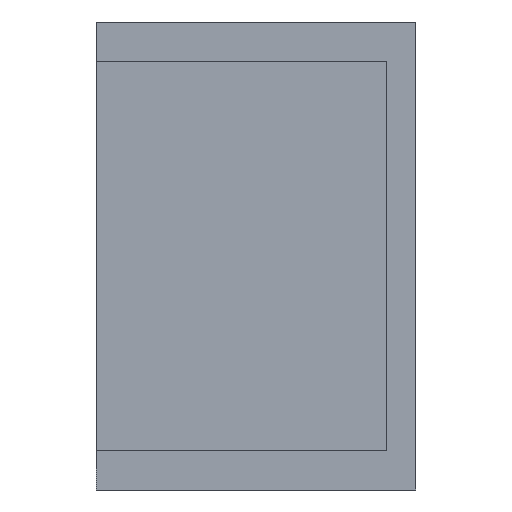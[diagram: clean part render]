
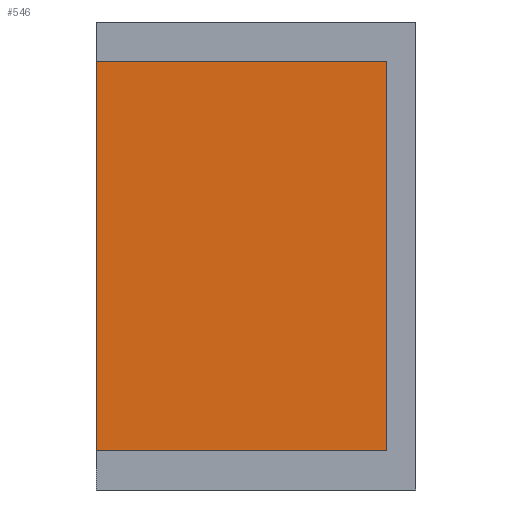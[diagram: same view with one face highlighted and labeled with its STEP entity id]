
A CAD part, left-side view. The second image highlights one B-rep face of the part: STEP entity #546.
In plain terms, the highlighted planar face has unit normal (-1, 0, 0).
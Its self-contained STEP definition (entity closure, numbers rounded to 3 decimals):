
#402 = EDGE_CURVE('',#403,#405,#407,.T.);
#403 = VERTEX_POINT('',#404);
#404 = CARTESIAN_POINT('',(-31.,0.,-8.));
#405 = VERTEX_POINT('',#406);
#406 = CARTESIAN_POINT('',(-31.,0.,0.)
  );
#407 = LINE('',#408,#409);
#408 = CARTESIAN_POINT('',(-31.,0.,-8.8));
#409 = VECTOR('',#410,1.);
#410 = DIRECTION('',(0.,0.,1.));
#546 = ADVANCED_FACE('',(#547),#572,.T.);
#547 = FACE_BOUND('',#548,.F.);
#548 = EDGE_LOOP('',(#549,#557,#558,#566));
#549 = ORIENTED_EDGE('',*,*,#550,.F.);
#550 = EDGE_CURVE('',#403,#551,#553,.T.);
#551 = VERTEX_POINT('',#552);
#552 = CARTESIAN_POINT('',(-31.,-5.96,-8.));
#553 = LINE('',#554,#555);
#554 = CARTESIAN_POINT('',(-31.,0.,-8.));
#555 = VECTOR('',#556,1.);
#556 = DIRECTION('',(0.,-1.,0.));
#557 = ORIENTED_EDGE('',*,*,#402,.T.);
#558 = ORIENTED_EDGE('',*,*,#559,.F.);
#559 = EDGE_CURVE('',#560,#405,#562,.T.);
#560 = VERTEX_POINT('',#561);
#561 = CARTESIAN_POINT('',(-31.,-5.96,0.));
#562 = LINE('',#563,#564);
#563 = CARTESIAN_POINT('',(-31.,-5.96,0.));
#564 = VECTOR('',#565,1.);
#565 = DIRECTION('',(0.,1.,0.));
#566 = ORIENTED_EDGE('',*,*,#567,.F.);
#567 = EDGE_CURVE('',#551,#560,#568,.T.);
#568 = LINE('',#569,#570);
#569 = CARTESIAN_POINT('',(-31.,-5.96,-8.));
#570 = VECTOR('',#571,1.);
#571 = DIRECTION('',(0.,0.,1.));
#572 = PLANE('',#573);
#573 = AXIS2_PLACEMENT_3D('',#574,#575,#576);
#574 = CARTESIAN_POINT('',(-31.,-3.28,-4.));
#575 = DIRECTION('',(-1.,0.,0.));
#576 = DIRECTION('',(0.,0.,-1.));
